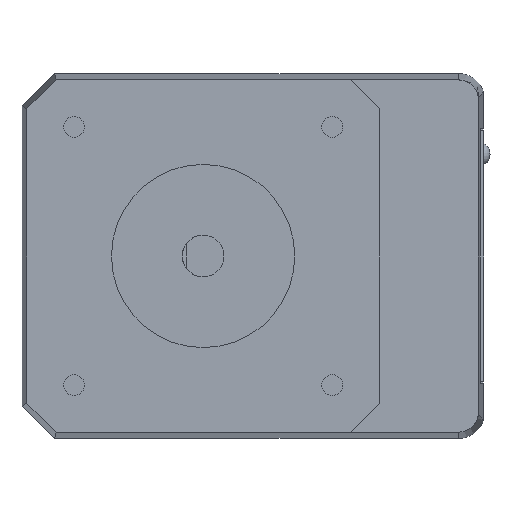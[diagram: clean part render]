
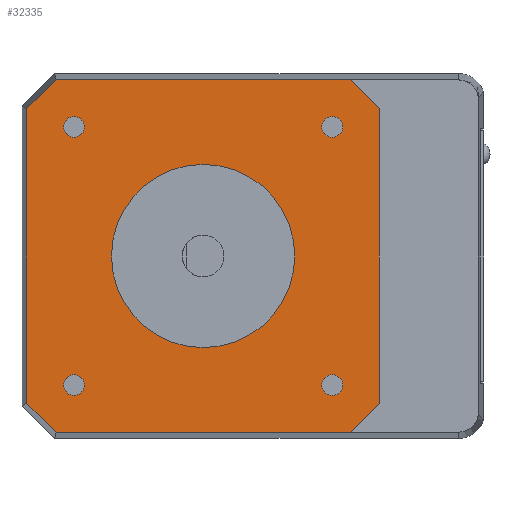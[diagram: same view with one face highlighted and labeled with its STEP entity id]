
A CAD part, front view. The second image highlights one B-rep face of the part: STEP entity #32335.
In plain terms, the highlighted planar face has unit normal (0, -1, 0).
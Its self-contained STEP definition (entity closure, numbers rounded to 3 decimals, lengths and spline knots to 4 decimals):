
#1443=DIRECTION('',(0.707,0.,0.707));
#1444=VECTOR('',#1443,0.1949);
#1445=CARTESIAN_POINT('',(0.1228,-1.1203,
0.4028));
#1446=LINE('',#1445,#1444);
#1447=DIRECTION('',(1.,0.,0.));
#1448=VECTOR('',#1447,1.3898);
#1449=CARTESIAN_POINT('',(0.2606,-1.1203,
0.5406));
#1450=LINE('',#1449,#1448);
#1451=DIRECTION('',(0.707,0.,-0.707));
#1452=VECTOR('',#1451,0.1949);
#1453=CARTESIAN_POINT('',(1.6503,-1.1203,
0.5406));
#1454=LINE('',#1453,#1452);
#1455=DIRECTION('',(0.,0.,-1.));
#1456=VECTOR('',#1455,1.3898);
#1457=CARTESIAN_POINT('',(1.7881,-1.1203,
0.4028));
#1458=LINE('',#1457,#1456);
#1459=DIRECTION('',(-0.707,0.,-0.707));
#1460=VECTOR('',#1459,0.1949);
#1461=CARTESIAN_POINT('',(1.7881,-1.1203,
-0.987));
#1462=LINE('',#1461,#1460);
#1463=DIRECTION('',(-1.,0.,0.));
#1464=VECTOR('',#1463,1.3898);
#1465=CARTESIAN_POINT('',(1.6503,-1.1203,
-1.1248));
#1466=LINE('',#1465,#1464);
#1467=DIRECTION('',(-0.707,0.,0.707));
#1468=VECTOR('',#1467,0.1949);
#1469=CARTESIAN_POINT('',(0.2606,-1.1203,
-1.1248));
#1470=LINE('',#1469,#1468);
#1471=DIRECTION('',(0.,0.,1.));
#1472=VECTOR('',#1471,1.3898);
#1473=CARTESIAN_POINT('',(0.1228,-1.1203,
-0.987));
#1474=LINE('',#1473,#1472);
#1475=CARTESIAN_POINT('',(0.9555,-1.1203,
-0.2921));
#1476=DIRECTION('',(0.,-1.,0.));
#1477=DIRECTION('',(0.,0.,1.));
#1478=AXIS2_PLACEMENT_3D('',#1475,#1476,#1477);
#1480=CARTESIAN_POINT('',(0.9555,-1.1203,
-0.2921));
#1481=DIRECTION('',(0.,-1.,0.));
#1482=DIRECTION('',(0.,0.,-1.));
#1483=AXIS2_PLACEMENT_3D('',#1480,#1481,#1482);
#1485=CARTESIAN_POINT('',(1.5657,-1.1203,
0.3182));
#1486=DIRECTION('',(0.,-1.,0.));
#1487=DIRECTION('',(0.,0.,-1.));
#1488=AXIS2_PLACEMENT_3D('',#1485,#1486,#1487);
#1490=CARTESIAN_POINT('',(1.5657,-1.1203,
0.3182));
#1491=DIRECTION('',(0.,-1.,0.));
#1492=DIRECTION('',(0.,0.,1.));
#1493=AXIS2_PLACEMENT_3D('',#1490,#1491,#1492);
#1495=CARTESIAN_POINT('',(0.3452,-1.1203,
0.3182));
#1496=DIRECTION('',(0.,-1.,0.));
#1497=DIRECTION('',(0.,0.,-1.));
#1498=AXIS2_PLACEMENT_3D('',#1495,#1496,#1497);
#1500=CARTESIAN_POINT('',(0.3452,-1.1203,
0.3182));
#1501=DIRECTION('',(0.,-1.,0.));
#1502=DIRECTION('',(0.,0.,1.));
#1503=AXIS2_PLACEMENT_3D('',#1500,#1501,#1502);
#1505=CARTESIAN_POINT('',(0.3452,-1.1203,
-0.9023));
#1506=DIRECTION('',(0.,-1.,0.));
#1507=DIRECTION('',(0.,0.,-1.));
#1508=AXIS2_PLACEMENT_3D('',#1505,#1506,#1507);
#1510=CARTESIAN_POINT('',(0.3452,-1.1203,
-0.9023));
#1511=DIRECTION('',(0.,-1.,0.));
#1512=DIRECTION('',(0.,0.,1.));
#1513=AXIS2_PLACEMENT_3D('',#1510,#1511,#1512);
#1515=CARTESIAN_POINT('',(1.5657,-1.1203,
-0.9023));
#1516=DIRECTION('',(0.,-1.,0.));
#1517=DIRECTION('',(0.,0.,-1.));
#1518=AXIS2_PLACEMENT_3D('',#1515,#1516,#1517);
#1520=CARTESIAN_POINT('',(1.5657,-1.1203,
-0.9023));
#1521=DIRECTION('',(0.,-1.,0.));
#1522=DIRECTION('',(0.,0.,1.));
#1523=AXIS2_PLACEMENT_3D('',#1520,#1521,#1522);
#24107=CARTESIAN_POINT('',(0.3452,-1.1203,
0.3674));
#24108=CARTESIAN_POINT('',(0.3452,-1.1203,
0.2689));
#24109=VERTEX_POINT('',#24107);
#24110=VERTEX_POINT('',#24108);
#24111=CARTESIAN_POINT('',(0.3452,-1.1203,
-0.8531));
#24112=CARTESIAN_POINT('',(0.3452,-1.1203,
-0.9515));
#24113=VERTEX_POINT('',#24111);
#24114=VERTEX_POINT('',#24112);
#24115=CARTESIAN_POINT('',(1.5657,-1.1203,
0.2689));
#24116=CARTESIAN_POINT('',(1.5657,-1.1203,
0.3674));
#24117=VERTEX_POINT('',#24115);
#24118=VERTEX_POINT('',#24116);
#24119=CARTESIAN_POINT('',(1.6503,-1.1203,
-1.1248));
#24120=CARTESIAN_POINT('',(0.2606,-1.1203,
-1.1248));
#24121=VERTEX_POINT('',#24119);
#24122=VERTEX_POINT('',#24120);
#24123=CARTESIAN_POINT('',(1.7881,-1.1203,
-0.987));
#24124=VERTEX_POINT('',#24123);
#24125=CARTESIAN_POINT('',(1.6503,-1.1203,
0.5406));
#24126=CARTESIAN_POINT('',(1.7881,-1.1203,
0.4028));
#24127=VERTEX_POINT('',#24125);
#24128=VERTEX_POINT('',#24126);
#24129=CARTESIAN_POINT('',(0.1228,-1.1203,
-0.987));
#24130=CARTESIAN_POINT('',(0.1228,-1.1203,
0.4028));
#24131=VERTEX_POINT('',#24129);
#24132=VERTEX_POINT('',#24130);
#24137=CARTESIAN_POINT('',(0.9555,-1.1203,
-0.7252));
#24138=CARTESIAN_POINT('',(0.9555,-1.1203,
0.141));
#24139=VERTEX_POINT('',#24137);
#24140=VERTEX_POINT('',#24138);
#24141=CARTESIAN_POINT('',(0.2606,-1.1203,
0.5406));
#24142=VERTEX_POINT('',#24141);
#24147=CARTESIAN_POINT('',(1.5657,-1.1203,
-0.9515));
#24148=CARTESIAN_POINT('',(1.5657,-1.1203,
-0.8531));
#24149=VERTEX_POINT('',#24147);
#24150=VERTEX_POINT('',#24148);
#32290=CARTESIAN_POINT('',(0.9555,-1.1203,
-1.8196));
#32291=DIRECTION('',(0.,-1.,0.));
#32292=DIRECTION('',(0.,0.,-1.));
#32293=AXIS2_PLACEMENT_3D('',#32290,#32291,#32292);
#32294=PLANE('',#32293);
#32295=ORIENTED_EDGE('',*,*,#32227,.T.);
#32296=ORIENTED_EDGE('',*,*,#32212,.T.);
#32297=ORIENTED_EDGE('',*,*,#32197,.T.);
#32298=ORIENTED_EDGE('',*,*,#32183,.T.);
#32299=ORIENTED_EDGE('',*,*,#32285,.T.);
#32300=ORIENTED_EDGE('',*,*,#32272,.T.);
#32301=ORIENTED_EDGE('',*,*,#32257,.T.);
#32302=ORIENTED_EDGE('',*,*,#32242,.T.);
#32303=EDGE_LOOP('',(#32295,#32296,#32297,#32298,#32299,#32300,#32301,#32302));
#32304=FACE_OUTER_BOUND('',#32303,.F.);
#32306=ORIENTED_EDGE('',*,*,#32305,.T.);
#32308=ORIENTED_EDGE('',*,*,#32307,.T.);
#32309=EDGE_LOOP('',(#32306,#32308));
#32310=FACE_BOUND('',#32309,.F.);
#32312=ORIENTED_EDGE('',*,*,#32311,.T.);
#32314=ORIENTED_EDGE('',*,*,#32313,.T.);
#32315=EDGE_LOOP('',(#32312,#32314));
#32316=FACE_BOUND('',#32315,.F.);
#32318=ORIENTED_EDGE('',*,*,#32317,.T.);
#32320=ORIENTED_EDGE('',*,*,#32319,.T.);
#32321=EDGE_LOOP('',(#32318,#32320));
#32322=FACE_BOUND('',#32321,.F.);
#32324=ORIENTED_EDGE('',*,*,#32323,.T.);
#32326=ORIENTED_EDGE('',*,*,#32325,.T.);
#32327=EDGE_LOOP('',(#32324,#32326));
#32328=FACE_BOUND('',#32327,.F.);
#32330=ORIENTED_EDGE('',*,*,#32329,.T.);
#32332=ORIENTED_EDGE('',*,*,#32331,.T.);
#32333=EDGE_LOOP('',(#32330,#32332));
#32334=FACE_BOUND('',#32333,.F.);
#32335=ADVANCED_FACE('',(#32304,#32310,#32316,#32322,#32328,#32334),#32294,.T.);
#1479=CIRCLE('',#1478,0.4331);
#1484=CIRCLE('',#1483,0.4331);
#1489=CIRCLE('',#1488,0.0492);
#1494=CIRCLE('',#1493,0.0492);
#1499=CIRCLE('',#1498,0.0492);
#1504=CIRCLE('',#1503,0.0492);
#1509=CIRCLE('',#1508,0.0492);
#1514=CIRCLE('',#1513,0.0492);
#1519=CIRCLE('',#1518,0.0492);
#1524=CIRCLE('',#1523,0.0492);
#32183=EDGE_CURVE('',#24128,#24124,#1458,.T.);
#32197=EDGE_CURVE('',#24127,#24128,#1454,.T.);
#32212=EDGE_CURVE('',#24142,#24127,#1450,.T.);
#32227=EDGE_CURVE('',#24132,#24142,#1446,.T.);
#32242=EDGE_CURVE('',#24131,#24132,#1474,.T.);
#32257=EDGE_CURVE('',#24122,#24131,#1470,.T.);
#32272=EDGE_CURVE('',#24121,#24122,#1466,.T.);
#32285=EDGE_CURVE('',#24124,#24121,#1462,.T.);
#32305=EDGE_CURVE('',#24140,#24139,#1479,.T.);
#32307=EDGE_CURVE('',#24139,#24140,#1484,.T.);
#32311=EDGE_CURVE('',#24117,#24118,#1489,.T.);
#32313=EDGE_CURVE('',#24118,#24117,#1494,.T.);
#32317=EDGE_CURVE('',#24110,#24109,#1499,.T.);
#32319=EDGE_CURVE('',#24109,#24110,#1504,.T.);
#32323=EDGE_CURVE('',#24114,#24113,#1509,.T.);
#32325=EDGE_CURVE('',#24113,#24114,#1514,.T.);
#32329=EDGE_CURVE('',#24149,#24150,#1519,.T.);
#32331=EDGE_CURVE('',#24150,#24149,#1524,.T.);
